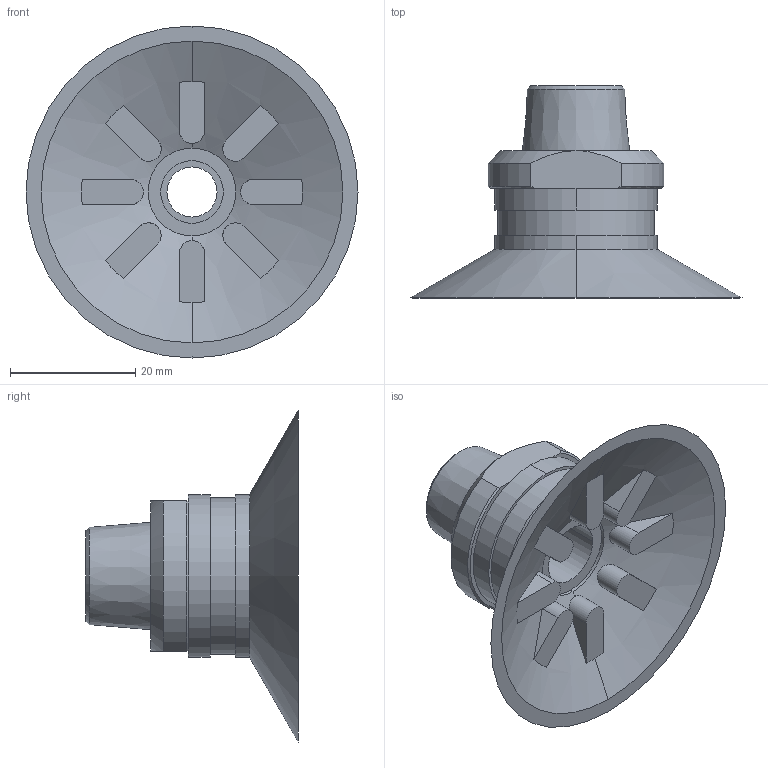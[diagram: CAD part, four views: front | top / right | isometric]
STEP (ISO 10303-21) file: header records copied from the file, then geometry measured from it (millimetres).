
FILE_DESCRIPTION (( 'STEP AP214' ), '1' );
FILE_NAME ('PF50-38MS.STEP', '2025-10-16T18:01:41', ( '' ), ( '' ), 'SwSTEP 2.0', 'SolidWorks 2025', '' );
FILE_SCHEMA (( 'AUTOMOTIVE_DESIGN' ));
Length unit declared in the file: inch
Products named in the file (3): PF50; PF50-38MS; 403.012
Assembly tree (2 placements, depth 2):
  PF50-38MS
    403.012
    PF50
Bounding box: 53 x 33.86 x 53 mm (x, y, z)
Volume: 12834.9 mm3; surface area: 9421.2 mm2
Topology: 2 solids, 2 shells, 93 faces, 206 edges, 135 vertices
Faces by surface type: plane 42, cylinder 34, cone 15, torus 2
Full cylindrical faces by diameter (mm): 8 x1, 12.021 x1, 25.007 x1
Entity records: 3382 total; most frequent: CARTESIAN_POINT 1244, DIRECTION 447, ORIENTED_EDGE 392, EDGE_CURVE 196, AXIS2_PLACEMENT_3D 189, VERTEX_POINT 131, EDGE_LOOP 121, FACE_OUTER_BOUND 96
